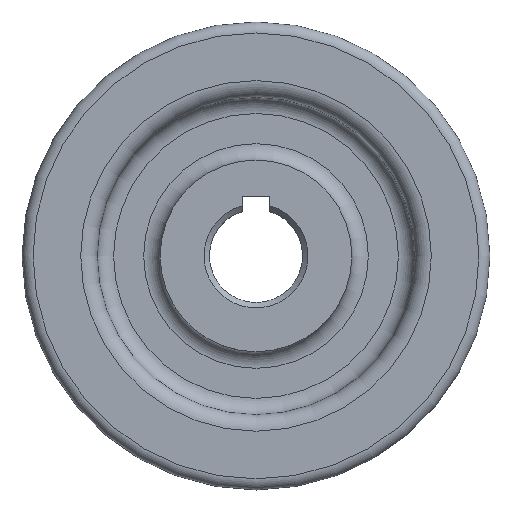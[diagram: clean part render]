
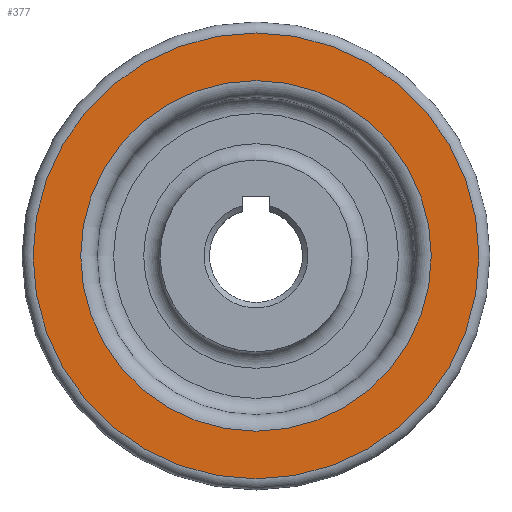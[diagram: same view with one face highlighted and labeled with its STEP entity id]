
A CAD part, top view. The second image highlights one B-rep face of the part: STEP entity #377.
In plain terms, the highlighted planar face has unit normal (0, 0, 1).
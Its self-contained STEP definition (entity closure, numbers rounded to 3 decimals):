
#49=PLANE($,#420);
#64=FACE_BOUND($,#127,.T.);
#89=FACE_OUTER_BOUND($,#126,.T.);
#126=EDGE_LOOP($,(#288));
#127=EDGE_LOOP($,(#289));
#176=CIRCLE($,#419,32.);
#177=CIRCLE($,#421,40.7);
#204=VERTEX_POINT($,#617);
#205=VERTEX_POINT($,#620);
#240=EDGE_CURVE($,#204,#204,#176,.T.);
#241=EDGE_CURVE($,#205,#205,#177,.T.);
#288=ORIENTED_EDGE($,*,*,#241,.F.);
#289=ORIENTED_EDGE($,*,*,#240,.F.);
#377=ADVANCED_FACE($,(#89,#64),#49,.T.);
#419=AXIS2_PLACEMENT_3D($,#618,#495,#496);
#420=AXIS2_PLACEMENT_3D($,#619,#497,#498);
#421=AXIS2_PLACEMENT_3D($,#621,#499,#500);
#495=DIRECTION('center_axis',(0.,0.,1.));
#496=DIRECTION('ref_axis',(0.,-1.,0.));
#497=DIRECTION('center_axis',(0.,0.,1.));
#498=DIRECTION('ref_axis',(1.,0.,0.));
#499=DIRECTION('center_axis',(0.,0.,-1.));
#500=DIRECTION('ref_axis',(0.,-1.,0.));
#617=CARTESIAN_POINT('',(0.,32.,9.5));
#618=CARTESIAN_POINT('Origin',(0.,0.,9.5));
#619=CARTESIAN_POINT('Origin',(0.,42.7,9.5));
#620=CARTESIAN_POINT('',(0.,40.7,9.5));
#621=CARTESIAN_POINT('Origin',(0.,0.,9.5));
